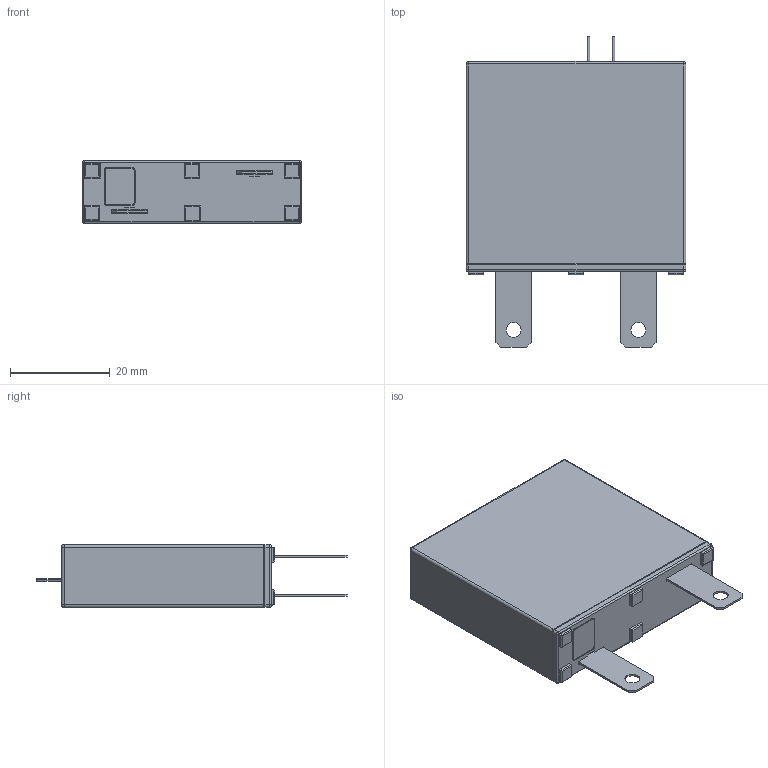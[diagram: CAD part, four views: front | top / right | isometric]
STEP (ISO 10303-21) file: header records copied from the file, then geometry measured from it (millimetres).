
FILE_DESCRIPTION((''),'2;1');
FILE_NAME('TFMOV40K-12-IT-20200812','2020-08-12T',('SET-01114'),(''),'PRO/ENGINEER BY PARAMETRIC TECHNOLOGY CORPORATION, 2012310','PRO/ENGINEER BY PARAMETRIC TECHNOLOGY CORPORATION, 2012310','');
FILE_SCHEMA(('CONFIG_CONTROL_DESIGN','SHAPE_APPEARANCE_LAYERS_GROUPS'));
Length unit declared in the file: millimetre
Products named in the file (1): TFMOV40K-12-IT-20200812
Bounding box: 44 x 62.2 x 12.6 mm (x, y, z)
Volume: 23351.9 mm3; surface area: 6500.2 mm2
Topology: 1 solids, 2 shells, 169 faces, 396 edges, 244 vertices
Faces by surface type: plane 92, cylinder 61, torus 8, bspline 4, sphere 4
Entity records: 6151 total; most frequent: CARTESIAN_POINT 1023, DIRECTION 794, ORIENTED_EDGE 792, PRESENTATION_STYLE_ASSIGNMENT 397, STYLED_ITEM 397, CURVE_STYLE 396, EDGE_CURVE 396, VECTOR 284
